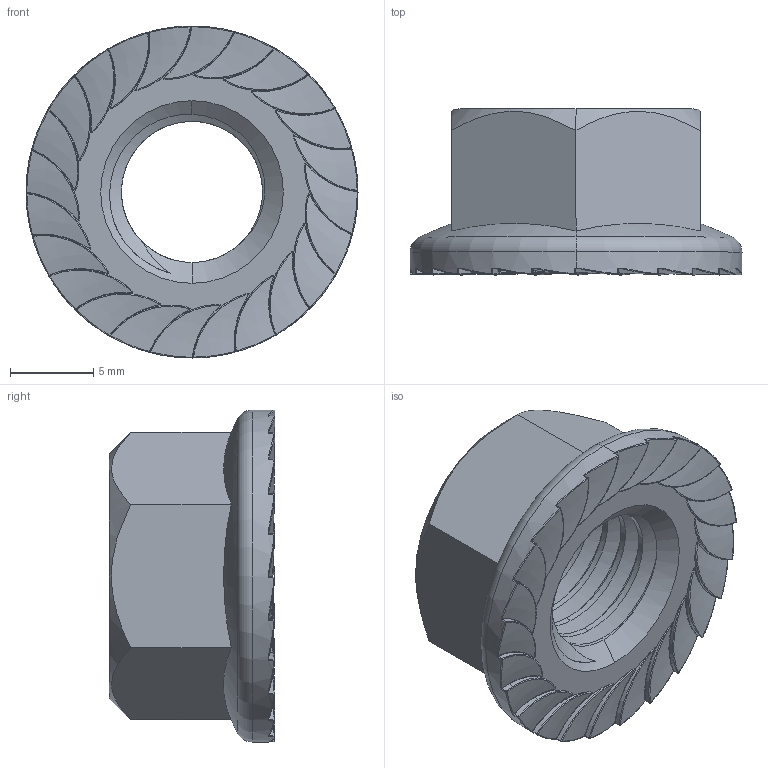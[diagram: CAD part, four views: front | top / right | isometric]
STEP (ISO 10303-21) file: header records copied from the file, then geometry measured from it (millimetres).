
FILE_DESCRIPTION (( 'STEP AP203' ), '1' );
FILE_NAME ('TANLD-304-M10.STEP', '2026-08-25T06:59:20', ( '' ), ( '' ), 'SwSTEP 2.0', 'SolidWorks 2020', '' );
FILE_SCHEMA (( 'CONFIG_CONTROL_DESIGN' ));
Length unit declared in the file: millimetre
Products named in the file (1): TANLD-304-M10
Bounding box: 20 x 9.99 x 20 mm (x, y, z)
Volume: 1474.5 mm3; surface area: 1399.9 mm2
Topology: 1 solids, 1 shells, 191 faces, 582 edges, 369 vertices
Faces by surface type: bspline 75, cylinder 73, sphere 25, plane 8, cone 6, torus 4
Entity records: 12213 total; most frequent: CARTESIAN_POINT 8051, ORIENTED_EDGE 1014, DIRECTION 678, EDGE_CURVE 507, VERTEX_POINT 319, AXIS2_PLACEMENT_3D 297, B_SPLINE_CURVE_WITH_KNOTS 228, EDGE_LOOP 192
